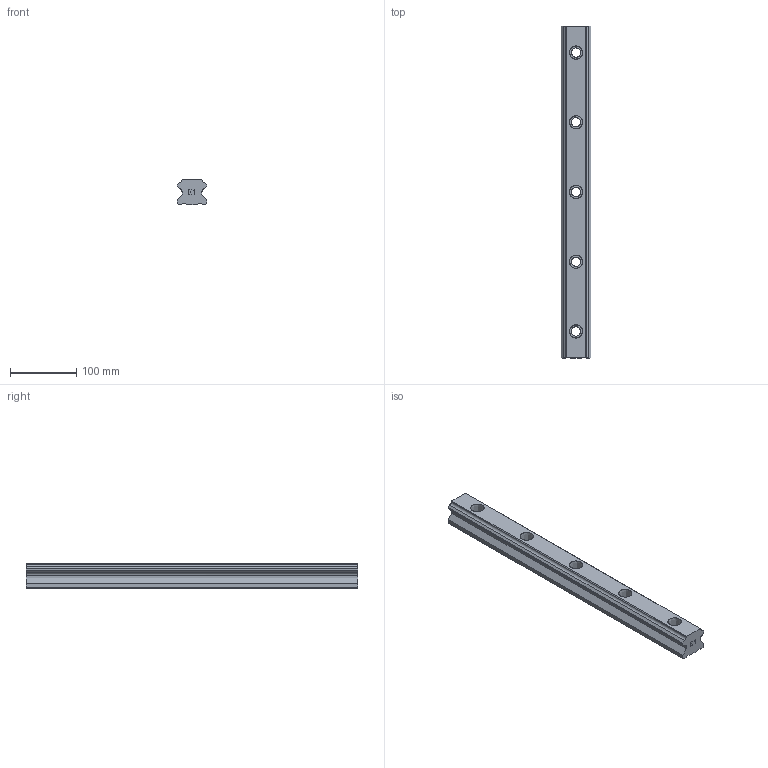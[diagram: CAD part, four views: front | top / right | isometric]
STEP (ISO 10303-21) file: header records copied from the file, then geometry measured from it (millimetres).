
FILE_DESCRIPTION(('STEP AP214'), '1');
FILE_NAME('Ðåëüñîâûå íàïðàâëÿþùèå Hiwin HGR45RC', '', ('UNSPECIFIED'), ('UNSPECIFIED'), 'ASCON STEP Converter 1.3', 'ASCON Math Kernel', '');
FILE_SCHEMA(('AUTOMOTIVE_DESIGN { 1 0 10303 214 3 1 1}'));
Length unit declared in the file: millimetre
Bounding box: 45 x 500 x 38 mm (x, y, z)
Volume: 668039.2 mm3; surface area: 97260.3 mm2
Topology: 1 solids, 1 shells, 117 faces, 313 edges, 207 vertices
Faces by surface type: plane 98, bspline 14, extrusion 5
Entity records: 7851 total; most frequent: CARTESIAN_POINT 4110, ORIENTED_EDGE 596, DIRECTION 468, EDGE_CURVE 298, VECTOR 270, LINE 265, VERTEX_POINT 207, EDGE_LOOP 151
